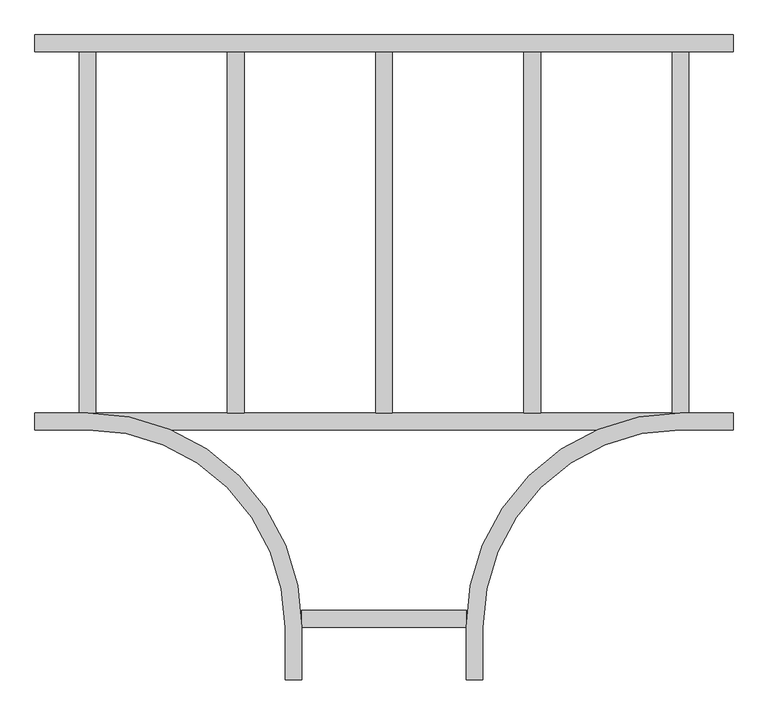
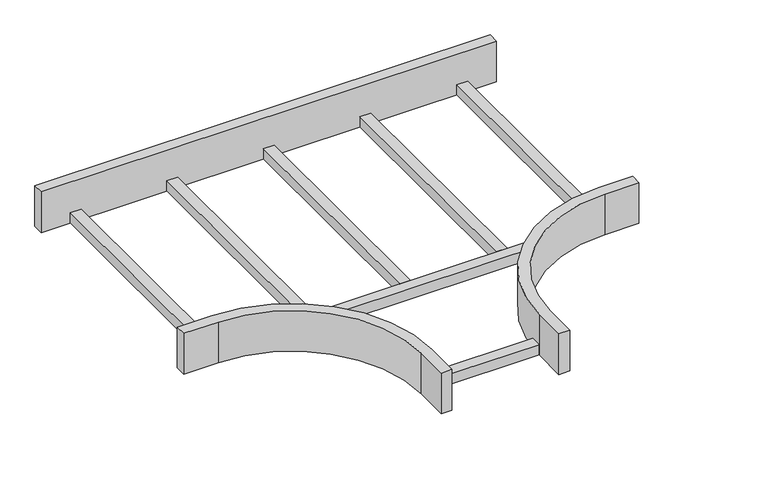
"""IFC4 building model written with IfcOpenShell, lengths in millimetres: cable carrier fitting geometry, Common_はしご水平ティー : 03 強電_低圧."""

from ifc_helpers import new_model, si_unit, frame, origin, place, context, project, spatial, polyline, circle_curve, outline, extrude, faceted_brep, source, transform, mapped, element, save
from ifc_brep_helpers import plane_surface, cylinder_surface, revolved_surface, advanced_brep


def cable_carrier_fitting_2f9b78bb(model_context):
    return source(origin(), model_context, "Body", "SolidModel", [
        extrude(outline(polyline([(124.6, -574.6), (124.6, -600.0), (-124.6, -600.0), (-124.6, -574.6), (124.6, -574.6)])), frame((0.0, 0.0, -50.0), z_axis=(0.0, 0.0, 1.0), x_axis=(1.0, 0.0, 0.0)), (0.0, 0.0, 1.0), 25.4),
        extrude(outline(polyline([(462.7, 274.6), (462.7, -274.6), (437.3, -274.6), (437.3, 274.6), (462.7, 274.6)])), frame((0.0, 0.0, -50.0), z_axis=(0.0, 0.0, 1.0), x_axis=(1.0, 0.0, 0.0)), (0.0, 0.0, 1.0), 25.4),
        extrude(outline(polyline([(237.7, 274.6), (237.7, -274.6), (212.3, -274.6), (212.3, 274.6), (237.7, 274.6)])), frame((0.0, 0.0, -50.0), z_axis=(0.0, 0.0, 1.0), x_axis=(1.0, 0.0, 0.0)), (0.0, 0.0, 1.0), 25.4),
        extrude(outline(polyline([(12.7, 274.6), (12.7, -274.6), (-12.7, -274.6), (-12.7, 274.6), (12.7, 274.6)])), frame((0.0, 0.0, -50.0), z_axis=(0.0, 0.0, 1.0), x_axis=(1.0, 0.0, 0.0)), (0.0, 0.0, 1.0), 25.4),
        extrude(outline(polyline([(-212.3, 274.6), (-212.3, -274.6), (-237.7, -274.6), (-237.7, 274.6), (-212.3, 274.6)])), frame((0.0, 0.0, -50.0), z_axis=(0.0, 0.0, 1.0), x_axis=(1.0, 0.0, 0.0)), (0.0, 0.0, 1.0), 25.4),
        extrude(outline(polyline([(-437.3, 274.6), (-437.3, -274.6), (-462.7, -274.6), (-462.7, 274.6), (-437.3, 274.6)])), frame((0.0, 0.0, -50.0), z_axis=(0.0, 0.0, 1.0), x_axis=(1.0, 0.0, 0.0)), (0.0, 0.0, 1.0), 25.4),
        advanced_brep(
        [(-150.0, -600.0, 50.0), (-150.0, -680.0, 50.0), (-124.6, -680.0, 50.0), (-124.6, -600.0, 50.0), (-450.0, -274.6, 50.0), (-530.0, -274.6, 50.0), (-530.0, -300.0, 50.0), (-450.0, -300.0, 50.0), (150.0, -600.0, 50.0), (450.0, -300.0, 50.0), (530.0, -300.0, 50.0), (530.0, -274.6, 50.0), (450.0, -274.6, 50.0), (124.6, -600.0, 50.0), (124.6, -680.0, 50.0), (150.0, -680.0, 50.0), (-150.0, -600.0, -50.0), (-450.0, -300.0, -50.0), (-530.0, -300.0, -50.0), (-530.0, -274.6, -50.0), (530.0, -274.6, -50.0), (530.0, -300.0, -50.0), (450.0, -300.0, -50.0), (150.0, -600.0, -50.0), (150.0, -680.0, -50.0), (124.6, -680.0, -50.0), (124.6, -600.0, -50.0), (323.9636561, -300.0, -50.0), (-323.9636561, -300.0, -50.0), (-124.6, -600.0, -50.0), (-124.6, -680.0, -50.0), (-150.0, -680.0, -50.0), (-323.9636561, -300.0, -24.6), (-450.0, -274.6, -24.6), (450.0, -274.6, -24.6), (-450.0, -300.0, -24.6), (450.0, -300.0, -24.6), (323.9636561, -300.0, -24.6)],
        [
            (0, 1),
            (1, 2),
            (2, 3),
            (3, 4, circle_curve(frame((-450.0, -600.0, 50.0), z_axis=(0.0, 0.0, 1.0), x_axis=(1.0, 0.0, 0.0)), 325.4)),
            (4, 5),
            (5, 6),
            (6, 7),
            (7, 0, circle_curve(frame((-450.0, -600.0, 50.0), z_axis=(0.0, 0.0, -1.0), x_axis=(1.0, 0.0, 0.0)), 300.0)),
            (8, 9, circle_curve(frame((450.0, -600.0, 50.0), z_axis=(0.0, 0.0, -1.0), x_axis=(1.0, 0.0, 0.0)), 300.0)),
            (9, 10),
            (10, 11),
            (11, 12),
            (12, 13, circle_curve(frame((450.0, -600.0, 50.0), z_axis=(0.0, 0.0, 1.0), x_axis=(1.0, 0.0, 0.0)), 325.4)),
            (13, 14),
            (14, 15),
            (15, 8),
            (16, 17, circle_curve(frame((-450.0, -600.0, -50.0), z_axis=(0.0, 0.0, 1.0), x_axis=(1.0, 0.0, 0.0)), 300.0)),
            (17, 18),
            (18, 19),
            (19, 20),
            (20, 21),
            (21, 22),
            (22, 23, circle_curve(frame((450.0, -600.0, -50.0), z_axis=(0.0, 0.0, 1.0), x_axis=(1.0, 0.0, 0.0)), 300.0)),
            (23, 24),
            (24, 25),
            (25, 26),
            (26, 27, circle_curve(frame((450.0, -600.0, -50.0), z_axis=(0.0, 0.0, -1.0), x_axis=(1.0, 0.0, 0.0)), 325.4)),
            (27, 28),
            (28, 29, circle_curve(frame((-450.0, -600.0, -50.0), z_axis=(0.0, 0.0, -1.0), x_axis=(1.0, 0.0, 0.0)), 325.4)),
            (29, 30),
            (30, 31),
            (31, 16),
            (0, 16),
            (31, 1),
            (30, 2),
            (29, 3),
            (28, 32),
            (32, 33, circle_curve(frame((-450.0, -600.0, -24.6), z_axis=(0.0, 0.0, 1.0), x_axis=(1.0, 0.0, 0.0)), 325.4)),
            (33, 4),
            (33, 34),
            (34, 12),
            (11, 20),
            (19, 5),
            (18, 6),
            (17, 35),
            (35, 7),
            (8, 23),
            (22, 36),
            (36, 9),
            (21, 10),
            (34, 37, circle_curve(frame((450.0, -600.0, -24.6), z_axis=(0.0, 0.0, 1.0), x_axis=(1.0, 0.0, 0.0)), 325.4)),
            (37, 27),
            (26, 13),
            (25, 14),
            (24, 15),
            (32, 37),
        ],
        [
            plane_surface(frame((-150.0, -600.0, 50.0), z_axis=(0.0, 0.0, 1.0), x_axis=(0.0, -1.0, 0.0))),
            plane_surface(frame((-150.0, -600.0, -50.0), z_axis=(0.0, 0.0, -1.0), x_axis=(0.0, 1.0, 0.0))),
            plane_surface(frame((-150.0, -600.0, 50.0), z_axis=(-1.0, 0.0, 0.0), x_axis=(0.0, 0.0, -1.0))),
            plane_surface(frame((-150.0, -680.0, 50.0), z_axis=(0.0, -1.0, 0.0), x_axis=(0.0, 0.0, -1.0))),
            plane_surface(frame((-124.6, -680.0, 50.0), z_axis=(1.0, 0.0, 0.0), x_axis=(0.0, 0.0, -1.0))),
            cylinder_surface(frame((-450.0, -600.0, -50.0), z_axis=(0.0, 0.0, 1.0), x_axis=(1.0, 0.0, 0.0)), 325.4),
            plane_surface(frame((-450.0, -274.6, 50.0), z_axis=(0.0, 1.0, 0.0), x_axis=(0.0, 0.0, -1.0))),
            plane_surface(frame((-530.0, -274.6, 50.0), z_axis=(-1.0, 0.0, 0.0), x_axis=(0.0, 0.0, -1.0))),
            plane_surface(frame((-530.0, -300.0, 50.0), z_axis=(0.0, -1.0, 0.0), x_axis=(0.0, 0.0, -1.0))),
            revolved_surface(polyline([(-150.0, -600.0, -50.0), (-150.0, -600.0, 50.0)]), (-450.0, -600.0, -50.0), (0.0, 0.0, -1.0)),
            revolved_surface(polyline([(750.0, -600.0, -50.0), (750.0, -600.0, 50.0)]), (450.0, -600.0, 0.0), (0.0, 0.0, -1.0)),
            plane_surface(frame((450.0, -300.0, 50.0), z_axis=(0.0, -1.0, 0.0), x_axis=(0.0, 0.0, -1.0))),
            plane_surface(frame((530.0, -300.0, 50.0), z_axis=(1.0, 0.0, 0.0), x_axis=(0.0, 0.0, -1.0))),
            cylinder_surface(frame((450.0, -600.0, 0.0), z_axis=(0.0, 0.0, 1.0), x_axis=(1.0, 0.0, 0.0)), 325.4),
            plane_surface(frame((124.6, -600.0, 50.0), z_axis=(-1.0, 0.0, 0.0), x_axis=(0.0, 0.0, -1.0))),
            plane_surface(frame((124.6, -680.0, 50.0), z_axis=(0.0, -1.0, 0.0), x_axis=(0.0, 0.0, -1.0))),
            plane_surface(frame((150.0, -680.0, 50.0), z_axis=(1.0, 0.0, 0.0), x_axis=(0.0, 0.0, -1.0))),
            plane_surface(frame((-450.0, -274.6, -24.6), z_axis=(0.0, 0.0, 1.0), x_axis=(-1.0, 0.0, 0.0))),
            plane_surface(frame((-450.0, -300.0, -24.6), z_axis=(0.0, -1.0, 0.0), x_axis=(0.0, 0.0, -1.0))),
        ],
        [
            (0, [[1, 2, 3, 4, 5, 6, 7, 8]]),
            (0, [[9, 10, 11, 12, 13, 14, 15, 16]]),
            (1, [[17, 18, 19, 20, 21, 22, 23, 24, 25, 26, 27, 28, 29, 30, 31, 32]]),
            (2, [[-1, 33, -32, 34]]),
            (3, [[-2, -34, -31, 35]]),
            (4, [[-3, -35, -30, 36]]),
            (5, [[-4, -36, -29, 37, 38, 39]]),
            (6, [[-5, -39, 40, 41, -12, 42, -20, 43]]),
            (7, [[-6, -43, -19, 44]]),
            (8, [[-7, -44, -18, 45, 46]]),
            (9, [[-8, -46, -45, -17, -33]]),
            (10, [[-9, 47, -23, 48, 49]]),
            (11, [[-10, -49, -48, -22, 50]]),
            (12, [[-11, -50, -21, -42]]),
            (13, [[-13, -41, 51, 52, -27, 53]]),
            (14, [[-14, -53, -26, 54]]),
            (15, [[-15, -54, -25, 55]]),
            (16, [[-16, -55, -24, -47]]),
            (17, [[-40, -38, 56, -51]]),
            (18, [[-28, -52, -56, -37]]),
        ],
    ),
        faceted_brep([(530.0, 300.0, 50.0), (-530.0, 300.0, 50.0), (-530.0, 274.6, 50.0), (530.0, 274.6, 50.0), (530.0, 300.0, -50.0), (530.0, 274.6, -50.0), (-530.0, 274.6, -50.0), (-530.0, 300.0, -50.0)], [[[0, 1, 2, 3]], [[4, 5, 6, 7]], [[1, 0, 4, 7]], [[2, 1, 7, 6]], [[3, 2, 6, 5]], [[0, 3, 5, 4]]]),
    ])


if __name__ == "__main__":
    model = new_model("IFC4")
    model_context = context("Model", 3, world=origin())
    ifc_project = project(units=[si_unit("LENGTHUNIT", "METRE", prefix="MILLI")], contexts=[model_context])
    site = spatial("IfcSite", under=ifc_project)
    building = spatial("IfcBuilding", under=site)
    placement = place(None, origin())
    cable_carrier_fitting_shape = cable_carrier_fitting_2f9b78bb(model_context)
    element("IfcCableCarrierFitting", 1, ObjectType="Common_はしご水平ティー : 03 強電_低圧", at=placement, inside=building, context=model_context, shape_type="MappedRepresentation", body=[
        mapped(cable_carrier_fitting_shape, transform((0.0, 0.0, 0.0), x_axis=(1.0, 0.0, 0.0), y_axis=(0.0, 1.0, 0.0), z_axis=(0.0, 0.0, 1.0))),
    ])
    save(model, "model.ifc")
